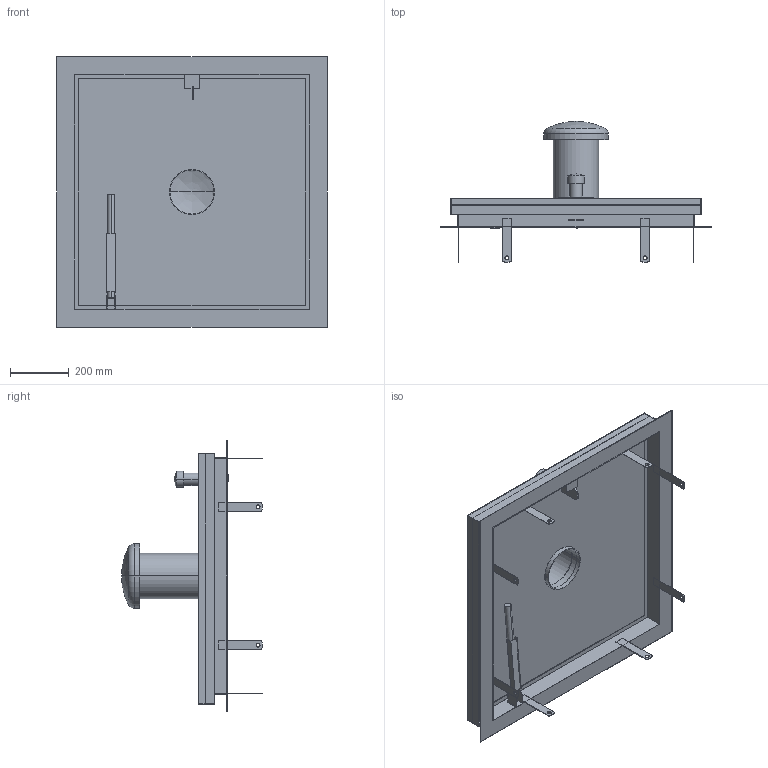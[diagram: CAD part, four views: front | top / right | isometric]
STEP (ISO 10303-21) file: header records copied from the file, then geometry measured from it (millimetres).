
FILE_DESCRIPTION((''),'2;1');
FILE_NAME('52335834','2024-12-19T07:35:05',('wep'),('HUBER SE'),'CREO PARAMETRIC BY PTC INC, 2022162','CREO PARAMETRIC BY PTC INC, 2022162','');
FILE_SCHEMA(('AUTOMOTIVE_DESIGN { 1 0 10303 214 1 1 1 1 }'));
Length unit declared in the file: millimetre
Products named in the file (1): 52335834
Bounding box: 920 x 479 x 920 mm (x, y, z)
Volume: 4326769.9 mm3; surface area: 4601961.2 mm2
Topology: 4 solids, 5 shells, 757 faces, 2048 edges, 1353 vertices
Faces by surface type: plane 425, extrusion 275, cylinder 47, torus 4, bspline 4, sphere 2
Entity records: 25616 total; most frequent: CARTESIAN_POINT 6869, ORIENTED_EDGE 4084, DIRECTION 2831, EDGE_CURVE 2042, VECTOR 1659, LINE 1384, VERTEX_POINT 1353, EDGE_LOOP 835
